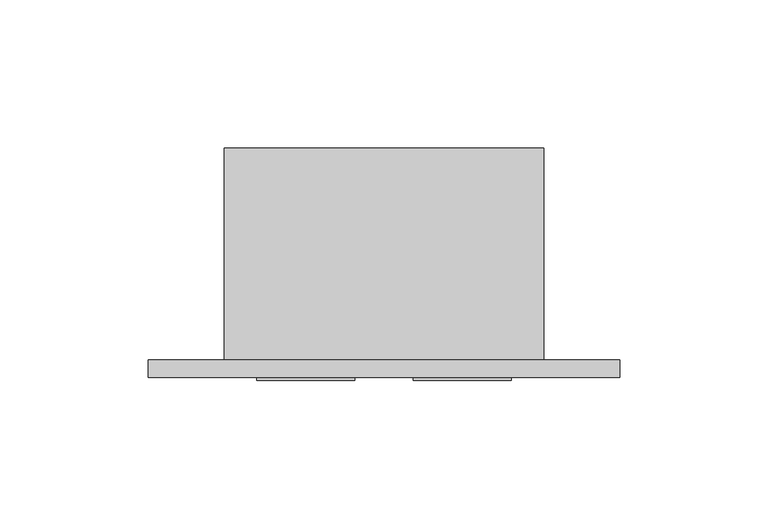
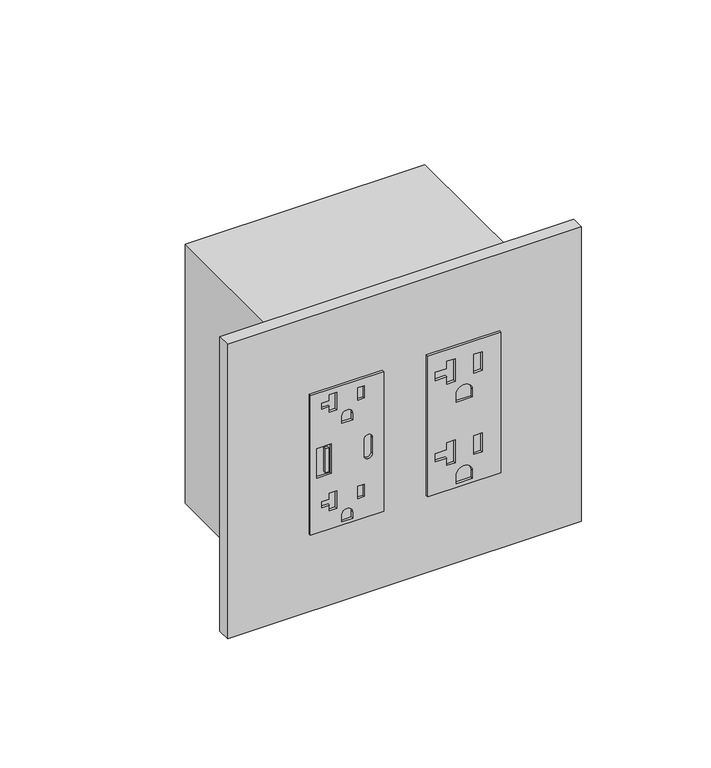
"""IFC4 building model written with IfcOpenShell, lengths in millimetres: proxy geometry, Electrical-Teknion-EPDMD_Vertical_Power_Data_Double-R2019 : PD Vertical Module - Double 20 Amp USB (A+C) & 20 Amp Standard."""

from ifc_helpers import new_model, si_unit, point, frame, frame_2d, origin, place, context, project, spatial, polyline, circle_curve, trimmed, segment, composite_curve, outline, extrude, source, transform, mapped, element, save


def electrical_fixtures_28eba391(model_context):
    return source(origin(), model_context, "Body", "SweptSolid", [
        extrude(outline(polyline([(414.1844229, 11.0998), (347.6364229, 11.0998), (347.6364229, 44.0944), (414.1844229, 44.0944), (414.1844229, 11.0998)]), holes=[polyline([(387.9589229, 14.0236066), (387.9589229, 20.5246617), (373.8619229, 20.5246617), (373.8619229, 14.0236066), (387.9589229, 14.0236066)]), composite_curve([segment(trimmed(circle_curve(frame_2d((384.6950229, 37.1348)), 1.905), [point((384.6950229, 35.2298))], [point((384.6950229, 39.0398))], True, "CARTESIAN"), True, "CONTINUOUS"), segment(polyline([(384.6950229, 39.0398), (377.1258229, 39.0398)]), True, "CONTINUOUS"), segment(trimmed(circle_curve(frame_2d((377.1258229, 37.1348)), 1.905), [point((377.1258229, 39.0398))], [point((377.1258229, 35.2298))], True, "CARTESIAN"), True, "CONTINUOUS"), segment(polyline([(377.1258229, 35.2298), (384.6950229, 35.2298)]), True, "CONTINUOUS")], self_intersect=False), composite_curve([segment(polyline([(349.1604229, 30.0609), (349.1604229, 25.1333), (352.2592229, 25.1333)]), True, "CONTINUOUS"), segment(trimmed(circle_curve(frame_2d((352.2592229, 27.5971)), 2.4638), [point((352.2592229, 25.1333))], [point((352.2592229, 30.0609))], True, "CARTESIAN"), True, "CONTINUOUS"), segment(polyline([(352.2592229, 30.0609), (349.1604229, 30.0609)]), True, "CONTINUOUS")], self_intersect=False), polyline([(364.7306229, 22.9616), (356.431589, 22.9616), (356.431589, 19.6342), (359.1147869, 19.6342), (359.1147869, 16.1036), (361.8524041, 16.1036), (361.8524041, 19.6342), (364.7306229, 19.6342), (364.7306229, 22.9616)]), composite_curve([segment(polyline([(396.1504229, 25.1333), (399.2492229, 25.1333)]), True, "CONTINUOUS"), segment(trimmed(circle_curve(frame_2d((399.2492229, 27.5971)), 2.4638), [point((399.2492229, 25.1333))], [point((399.2492229, 30.0609))], True, "CARTESIAN"), True, "CONTINUOUS"), segment(polyline([(399.2492229, 30.0609), (396.1504229, 30.0609), (396.1504229, 25.1333)]), True, "CONTINUOUS")], self_intersect=False), polyline([(404.6678878, 32.4358), (410.4910404, 32.4358), (410.4910404, 35.41014), (404.6678878, 35.41014), (404.6678878, 32.4358)]), polyline([(357.6778878, 32.4358), (363.5010404, 32.4358), (363.5010404, 35.41014), (357.6778878, 35.41014), (357.6778878, 32.4358)]), polyline([(411.7206229, 22.9616), (403.421589, 22.9616), (403.421589, 19.6342), (406.1047869, 19.6342), (406.1047869, 16.1036), (408.8424041, 16.1036), (408.8424041, 19.6342), (411.7206229, 19.6342), (411.7206229, 22.9616)])]), frame((0.0, -6.9294746, 0.0), z_axis=(0.0, 1.0, 0.0), x_axis=(0.0, 0.0, 1.0)), (0.0, 0.0, 1.0), 1.0366746),
        extrude(outline(polyline([(19.314835, -6.9294746), (17.7939058, -6.9294746), (17.7939058, -5.8928), (19.314835, -5.8928), (19.314835, -6.9294746)])), frame((0.0, 0.0, 375.1845775), z_axis=(0.0, 0.0, 1.0), x_axis=(1.0, 0.0, 0.0)), (0.0, 0.0, 1.0), 11.4436352),
        extrude(outline(polyline([(414.4772, 96.9264), (414.4772, 63.9318), (347.5228, 63.9318), (347.5228, 96.9264), (414.4772, 96.9264)]), holes=[polyline([(366.8776, 72.4408), (370.3574, 72.4408), (370.3574, 76.2762), (359.537, 76.2762), (359.537, 72.4408), (363.0168, 72.4408), (363.0168, 67.3354), (366.8776, 67.3354), (366.8776, 72.4408)]), polyline([(369.3795, 88.4428), (360.5149, 88.4428), (360.5149, 84.6074), (369.3795, 84.6074), (369.3795, 88.4428)]), composite_curve([segment(polyline([(352.9838, 84.0613), (349.3516, 84.0613), (349.3516, 76.7969), (352.9838, 76.7969)]), True, "CONTINUOUS"), segment(trimmed(circle_curve(frame_2d((352.9838, 80.4291)), 3.6322), [point((352.9838, 76.7969))], [point((352.9838, 84.0613))], True, "CARTESIAN"), True, "CONTINUOUS")], self_intersect=False), polyline([(405.6126, 72.4408), (409.0924, 72.4408), (409.0924, 76.2762), (398.272, 76.2762), (398.272, 72.4408), (401.7518, 72.4408), (401.7518, 67.3354), (405.6126, 67.3354), (405.6126, 72.4408)]), polyline([(408.1145, 88.4428), (399.2499, 88.4428), (399.2499, 84.6074), (408.1145, 84.6074), (408.1145, 88.4428)]), composite_curve([segment(polyline([(391.7188, 84.0613), (388.0866, 84.0613), (388.0866, 76.7969), (391.7188, 76.7969)]), True, "CONTINUOUS"), segment(trimmed(circle_curve(frame_2d((391.7188, 80.4291)), 3.6322), [point((391.7188, 76.7969))], [point((391.7188, 84.0613))], True, "CARTESIAN"), True, "CONTINUOUS")], self_intersect=False)]), frame((0.0, -6.9294746, 0.0), z_axis=(0.0, 1.0, 0.0), x_axis=(0.0, 0.0, 1.0)), (0.0, 0.0, 1.0), 1.0366746),
        extrude(outline(polyline([(-25.6794, 0.0), (133.7056, 0.0), (133.7056, -5.8928), (-25.6794, -5.8928), (-25.6794, 0.0)])), frame((0.0, 0.0, 310.7302229), z_axis=(0.0, 0.0, 1.0), x_axis=(1.0, 0.0, 0.0)), (0.0, 0.0, 1.0), 140.3604),
        extrude(outline(polyline([(108.0262, 0.0), (0.0, 0.0), (0.0, 71.7296), (108.0262, 71.7296), (108.0262, 0.0)])), frame((0.0, 0.0, 319.1630229), z_axis=(0.0, 0.0, 1.0), x_axis=(1.0, 0.0, 0.0)), (0.0, 0.0, 1.0), 123.4948),
    ])


if __name__ == "__main__":
    model = new_model("IFC4")
    model_context = context("Model", 3, world=origin())
    ifc_project = project(units=[si_unit("LENGTHUNIT", "METRE", prefix="MILLI")], contexts=[model_context])
    site = spatial("IfcSite", under=ifc_project)
    building = spatial("IfcBuilding", under=site)
    placement = place(None, origin())
    electrical_fixtures_shape = electrical_fixtures_28eba391(model_context)
    element("IfcBuildingElementProxy", 1, Name="Electrical-Teknion-EPDMD_Vertical_Power_Data_Double-R2019 : PD Vertical Module - Double 20 Amp USB (A+C) & 20 Amp Standard", ObjectType="Electrical-Teknion-EPDMD_Vertical_Power_Data_Double-R2019 : PD Vertical Module - Double 20 Amp USB (A+C) & 20 Amp Standard", at=placement, inside=building, context=model_context, shape_type="MappedRepresentation", body=[
        mapped(electrical_fixtures_shape, transform((0.0, 0.0, 0.0), x_axis=(1.0, 0.0, 0.0), y_axis=(0.0, 1.0, 0.0), z_axis=(0.0, 0.0, 1.0))),
    ])
    save(model, "model.ifc")
